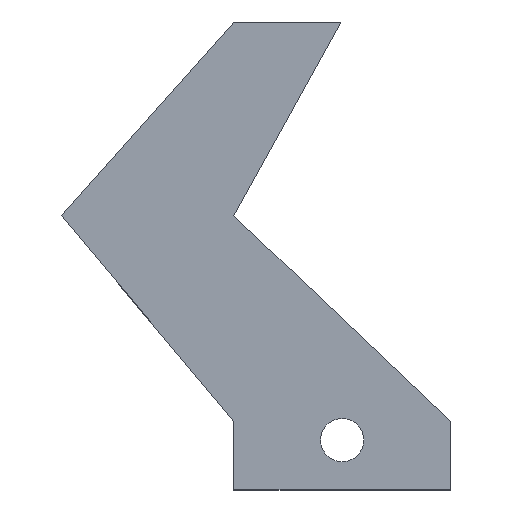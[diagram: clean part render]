
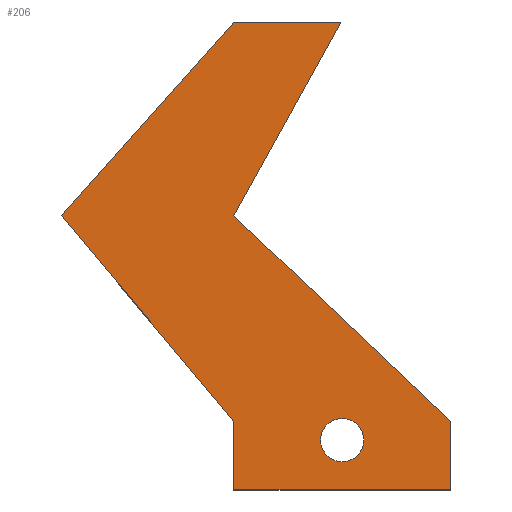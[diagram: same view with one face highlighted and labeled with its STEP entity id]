
A CAD part, top view. The second image highlights one B-rep face of the part: STEP entity #206.
In plain terms, the highlighted planar face has unit normal (0, 0, 1).
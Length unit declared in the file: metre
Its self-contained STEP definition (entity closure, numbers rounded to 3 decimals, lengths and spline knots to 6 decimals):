
#12=CIRCLE('',#230,0.002);
#49=ORIENTED_EDGE('',*,*,#69,.F.);
#50=ORIENTED_EDGE('',*,*,#73,.T.);
#51=ORIENTED_EDGE('',*,*,#76,.F.);
#52=ORIENTED_EDGE('',*,*,#79,.T.);
#53=ORIENTED_EDGE('',*,*,#82,.T.);
#54=ORIENTED_EDGE('',*,*,#85,.F.);
#55=ORIENTED_EDGE('',*,*,#88,.F.);
#56=ORIENTED_EDGE('',*,*,#90,.F.);
#57=ORIENTED_EDGE('',*,*,#91,.F.);
#69=EDGE_CURVE('',#95,#96,#113,.T.);
#73=EDGE_CURVE('',#95,#98,#117,.T.);
#76=EDGE_CURVE('',#100,#98,#120,.T.);
#79=EDGE_CURVE('',#100,#102,#123,.T.);
#82=EDGE_CURVE('',#102,#104,#126,.T.);
#85=EDGE_CURVE('',#106,#104,#129,.T.);
#88=EDGE_CURVE('',#108,#106,#132,.T.);
#90=EDGE_CURVE('',#96,#108,#134,.T.);
#91=EDGE_CURVE('',#109,#109,#12,.T.);
#95=VERTEX_POINT('',#292);
#96=VERTEX_POINT('',#294);
#98=VERTEX_POINT('',#300);
#100=VERTEX_POINT('',#306);
#102=VERTEX_POINT('',#312);
#104=VERTEX_POINT('',#318);
#106=VERTEX_POINT('',#324);
#108=VERTEX_POINT('',#330);
#109=VERTEX_POINT('',#337);
#113=LINE('',#293,#137);
#117=LINE('',#301,#141);
#120=LINE('',#307,#144);
#123=LINE('',#313,#147);
#126=LINE('',#319,#150);
#129=LINE('',#325,#153);
#132=LINE('',#331,#156);
#134=LINE('',#334,#158);
#137=VECTOR('',#240,1.);
#141=VECTOR('',#246,1.);
#144=VECTOR('',#251,1.);
#147=VECTOR('',#256,1.);
#150=VECTOR('',#261,1.);
#153=VECTOR('',#266,1.);
#156=VECTOR('',#271,1.);
#158=VECTOR('',#275,1.);
#169=EDGE_LOOP('',(#49,#50,#51,#52,#53,#54,#55,#56));
#170=EDGE_LOOP('',(#57));
#183=FACE_BOUND('',#169,.T.);
#184=FACE_BOUND('',#170,.T.);
#195=PLANE('',#232);
#206=ADVANCED_FACE('',(#183,#184),#195,.T.);
#230=AXIS2_PLACEMENT_3D('',#336,#278,#279);
#232=AXIS2_PLACEMENT_3D('',#340,#282,#283);
#240=DIRECTION('',(-1.,0.,0.));
#246=DIRECTION('',(0.,1.,0.));
#251=DIRECTION('',(0.726,-0.688,0.));
#256=DIRECTION('',(0.484,0.875,0.));
#261=DIRECTION('',(-1.,0.,0.));
#266=DIRECTION('',(0.665,0.747,0.));
#271=DIRECTION('',(-0.643,0.766,0.));
#275=DIRECTION('',(0.,1.,0.));
#278=DIRECTION('',(0.,0.,1.));
#279=DIRECTION('',(1.,0.,0.));
#282=DIRECTION('',(0.,0.,1.));
#283=DIRECTION('',(1.,0.,0.));
#292=CARTESIAN_POINT('',(0.,0.,0.005));
#293=CARTESIAN_POINT('',(-0.01,0.,0.005));
#294=CARTESIAN_POINT('',(-0.02,0.,0.005));
#300=CARTESIAN_POINT('',(0.,0.006336,0.005));
#301=CARTESIAN_POINT('',(0.,0.003168,0.005));
#306=CARTESIAN_POINT('',(-0.02,0.025296,0.005));
#307=CARTESIAN_POINT('',(-0.01,0.015816,0.005));
#312=CARTESIAN_POINT('',(-0.010117,0.043171,0.005));
#313=CARTESIAN_POINT('',(-0.015059,0.034233,0.005));
#318=CARTESIAN_POINT('',(-0.02,0.043171,0.005));
#319=CARTESIAN_POINT('',(-0.015059,0.043171,0.005));
#324=CARTESIAN_POINT('',(-0.035911,0.025296,0.005));
#325=CARTESIAN_POINT('',(-0.027955,0.034233,0.005));
#330=CARTESIAN_POINT('',(-0.02,0.006336,0.005));
#331=CARTESIAN_POINT('',(-0.027955,0.015816,0.005));
#334=CARTESIAN_POINT('',(-0.02,0.003168,0.005));
#336=CARTESIAN_POINT('',(-0.01,0.004593,0.005));
#337=CARTESIAN_POINT('',(-0.008,0.004593,0.005));
#340=CARTESIAN_POINT('',(-0.017955,0.021586,0.005));
